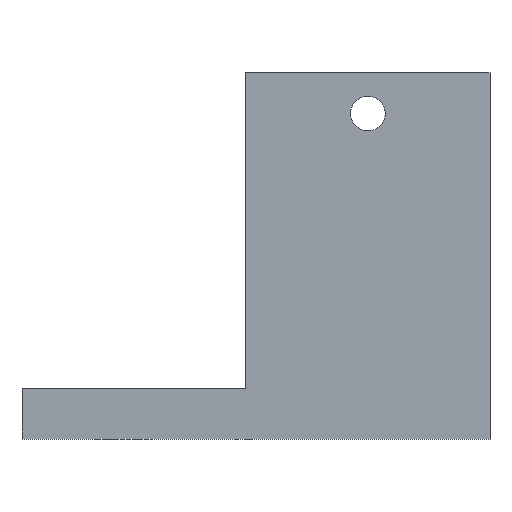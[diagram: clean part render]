
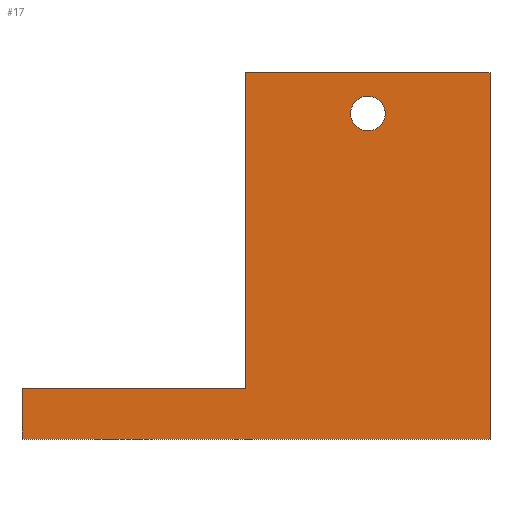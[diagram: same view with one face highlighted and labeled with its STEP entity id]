
A CAD part, left-side view. The second image highlights one B-rep face of the part: STEP entity #17.
In plain terms, the highlighted planar face has unit normal (-1, 0, 0).
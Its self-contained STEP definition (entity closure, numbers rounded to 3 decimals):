
#17 = ADVANCED_FACE('',(#18,#193),#32,.F.);
#18 = FACE_BOUND('',#19,.F.);
#19 = EDGE_LOOP('',(#20,#55,#83,#111,#139,#167));
#20 = ORIENTED_EDGE('',*,*,#21,.F.);
#21 = EDGE_CURVE('',#22,#24,#26,.T.);
#22 = VERTEX_POINT('',#23);
#23 = CARTESIAN_POINT('',(0.,0.,0.));
#24 = VERTEX_POINT('',#25);
#25 = CARTESIAN_POINT('',(0.,0.,36.));
#26 = SURFACE_CURVE('',#27,(#31,#43),.PCURVE_S1.);
#27 = LINE('',#28,#29);
#28 = CARTESIAN_POINT('',(0.,0.,0.));
#29 = VECTOR('',#30,1.);
#30 = DIRECTION('',(0.,0.,1.));
#31 = PCURVE('',#32,#37);
#32 = PLANE('',#33);
#33 = AXIS2_PLACEMENT_3D('',#34,#35,#36);
#34 = CARTESIAN_POINT('',(0.,0.,0.));
#35 = DIRECTION('',(1.,0.,0.));
#36 = DIRECTION('',(0.,0.,1.));
#37 = DEFINITIONAL_REPRESENTATION('',(#38),#42);
#38 = LINE('',#39,#40);
#39 = CARTESIAN_POINT('',(0.,0.));
#40 = VECTOR('',#41,1.);
#41 = DIRECTION('',(1.,0.));
#42 = ( GEOMETRIC_REPRESENTATION_CONTEXT(2) 
PARAMETRIC_REPRESENTATION_CONTEXT() REPRESENTATION_CONTEXT('2D SPACE',''
  ) );
#43 = PCURVE('',#44,#49);
#44 = PLANE('',#45);
#45 = AXIS2_PLACEMENT_3D('',#46,#47,#48);
#46 = CARTESIAN_POINT('',(0.,0.,0.));
#47 = DIRECTION('',(0.,1.,0.));
#48 = DIRECTION('',(0.,0.,1.));
#49 = DEFINITIONAL_REPRESENTATION('',(#50),#54);
#50 = LINE('',#51,#52);
#51 = CARTESIAN_POINT('',(0.,0.));
#52 = VECTOR('',#53,1.);
#53 = DIRECTION('',(1.,0.));
#54 = ( GEOMETRIC_REPRESENTATION_CONTEXT(2) 
PARAMETRIC_REPRESENTATION_CONTEXT() REPRESENTATION_CONTEXT('2D SPACE',''
  ) );
#55 = ORIENTED_EDGE('',*,*,#56,.F.);
#56 = EDGE_CURVE('',#57,#22,#59,.T.);
#57 = VERTEX_POINT('',#58);
#58 = CARTESIAN_POINT('',(0.,46.,0.));
#59 = SURFACE_CURVE('',#60,(#64,#71),.PCURVE_S1.);
#60 = LINE('',#61,#62);
#61 = CARTESIAN_POINT('',(0.,46.,0.));
#62 = VECTOR('',#63,1.);
#63 = DIRECTION('',(0.,-1.,0.));
#64 = PCURVE('',#32,#65);
#65 = DEFINITIONAL_REPRESENTATION('',(#66),#70);
#66 = LINE('',#67,#68);
#67 = CARTESIAN_POINT('',(0.,-46.));
#68 = VECTOR('',#69,1.);
#69 = DIRECTION('',(0.,1.));
#70 = ( GEOMETRIC_REPRESENTATION_CONTEXT(2) 
PARAMETRIC_REPRESENTATION_CONTEXT() REPRESENTATION_CONTEXT('2D SPACE',''
  ) );
#71 = PCURVE('',#72,#77);
#72 = PLANE('',#73);
#73 = AXIS2_PLACEMENT_3D('',#74,#75,#76);
#74 = CARTESIAN_POINT('',(0.,0.,0.));
#75 = DIRECTION('',(0.,0.,1.));
#76 = DIRECTION('',(1.,0.,0.));
#77 = DEFINITIONAL_REPRESENTATION('',(#78),#82);
#78 = LINE('',#79,#80);
#79 = CARTESIAN_POINT('',(0.,46.));
#80 = VECTOR('',#81,1.);
#81 = DIRECTION('',(0.,-1.));
#82 = ( GEOMETRIC_REPRESENTATION_CONTEXT(2) 
PARAMETRIC_REPRESENTATION_CONTEXT() REPRESENTATION_CONTEXT('2D SPACE',''
  ) );
#83 = ORIENTED_EDGE('',*,*,#84,.T.);
#84 = EDGE_CURVE('',#57,#85,#87,.T.);
#85 = VERTEX_POINT('',#86);
#86 = CARTESIAN_POINT('',(0.,46.,5.));
#87 = SURFACE_CURVE('',#88,(#92,#99),.PCURVE_S1.);
#88 = LINE('',#89,#90);
#89 = CARTESIAN_POINT('',(0.,46.,0.));
#90 = VECTOR('',#91,1.);
#91 = DIRECTION('',(0.,0.,1.));
#92 = PCURVE('',#32,#93);
#93 = DEFINITIONAL_REPRESENTATION('',(#94),#98);
#94 = LINE('',#95,#96);
#95 = CARTESIAN_POINT('',(0.,-46.));
#96 = VECTOR('',#97,1.);
#97 = DIRECTION('',(1.,0.));
#98 = ( GEOMETRIC_REPRESENTATION_CONTEXT(2) 
PARAMETRIC_REPRESENTATION_CONTEXT() REPRESENTATION_CONTEXT('2D SPACE',''
  ) );
#99 = PCURVE('',#100,#105);
#100 = PLANE('',#101);
#101 = AXIS2_PLACEMENT_3D('',#102,#103,#104);
#102 = CARTESIAN_POINT('',(0.,46.,0.));
#103 = DIRECTION('',(0.,1.,0.));
#104 = DIRECTION('',(0.,0.,1.));
#105 = DEFINITIONAL_REPRESENTATION('',(#106),#110);
#106 = LINE('',#107,#108);
#107 = CARTESIAN_POINT('',(0.,0.));
#108 = VECTOR('',#109,1.);
#109 = DIRECTION('',(1.,0.));
#110 = ( GEOMETRIC_REPRESENTATION_CONTEXT(2) 
PARAMETRIC_REPRESENTATION_CONTEXT() REPRESENTATION_CONTEXT('2D SPACE',''
  ) );
#111 = ORIENTED_EDGE('',*,*,#112,.F.);
#112 = EDGE_CURVE('',#113,#85,#115,.T.);
#113 = VERTEX_POINT('',#114);
#114 = CARTESIAN_POINT('',(0.,24.,5.));
#115 = SURFACE_CURVE('',#116,(#120,#127),.PCURVE_S1.);
#116 = LINE('',#117,#118);
#117 = CARTESIAN_POINT('',(0.,0.,5.));
#118 = VECTOR('',#119,1.);
#119 = DIRECTION('',(0.,1.,0.));
#120 = PCURVE('',#32,#121);
#121 = DEFINITIONAL_REPRESENTATION('',(#122),#126);
#122 = LINE('',#123,#124);
#123 = CARTESIAN_POINT('',(5.,0.));
#124 = VECTOR('',#125,1.);
#125 = DIRECTION('',(0.,-1.));
#126 = ( GEOMETRIC_REPRESENTATION_CONTEXT(2) 
PARAMETRIC_REPRESENTATION_CONTEXT() REPRESENTATION_CONTEXT('2D SPACE',''
  ) );
#127 = PCURVE('',#128,#133);
#128 = PLANE('',#129);
#129 = AXIS2_PLACEMENT_3D('',#130,#131,#132);
#130 = CARTESIAN_POINT('',(0.,0.,5.));
#131 = DIRECTION('',(0.,0.,1.));
#132 = DIRECTION('',(1.,0.,0.));
#133 = DEFINITIONAL_REPRESENTATION('',(#134),#138);
#134 = LINE('',#135,#136);
#135 = CARTESIAN_POINT('',(0.,0.));
#136 = VECTOR('',#137,1.);
#137 = DIRECTION('',(0.,1.));
#138 = ( GEOMETRIC_REPRESENTATION_CONTEXT(2) 
PARAMETRIC_REPRESENTATION_CONTEXT() REPRESENTATION_CONTEXT('2D SPACE',''
  ) );
#139 = ORIENTED_EDGE('',*,*,#140,.T.);
#140 = EDGE_CURVE('',#113,#141,#143,.T.);
#141 = VERTEX_POINT('',#142);
#142 = CARTESIAN_POINT('',(0.,24.,36.));
#143 = SURFACE_CURVE('',#144,(#148,#155),.PCURVE_S1.);
#144 = LINE('',#145,#146);
#145 = CARTESIAN_POINT('',(0.,24.,0.));
#146 = VECTOR('',#147,1.);
#147 = DIRECTION('',(0.,0.,1.));
#148 = PCURVE('',#32,#149);
#149 = DEFINITIONAL_REPRESENTATION('',(#150),#154);
#150 = LINE('',#151,#152);
#151 = CARTESIAN_POINT('',(0.,-24.));
#152 = VECTOR('',#153,1.);
#153 = DIRECTION('',(1.,0.));
#154 = ( GEOMETRIC_REPRESENTATION_CONTEXT(2) 
PARAMETRIC_REPRESENTATION_CONTEXT() REPRESENTATION_CONTEXT('2D SPACE',''
  ) );
#155 = PCURVE('',#156,#161);
#156 = PLANE('',#157);
#157 = AXIS2_PLACEMENT_3D('',#158,#159,#160);
#158 = CARTESIAN_POINT('',(0.,24.,0.));
#159 = DIRECTION('',(0.,1.,0.));
#160 = DIRECTION('',(0.,0.,1.));
#161 = DEFINITIONAL_REPRESENTATION('',(#162),#166);
#162 = LINE('',#163,#164);
#163 = CARTESIAN_POINT('',(0.,0.));
#164 = VECTOR('',#165,1.);
#165 = DIRECTION('',(1.,0.));
#166 = ( GEOMETRIC_REPRESENTATION_CONTEXT(2) 
PARAMETRIC_REPRESENTATION_CONTEXT() REPRESENTATION_CONTEXT('2D SPACE',''
  ) );
#167 = ORIENTED_EDGE('',*,*,#168,.F.);
#168 = EDGE_CURVE('',#24,#141,#169,.T.);
#169 = SURFACE_CURVE('',#170,(#174,#181),.PCURVE_S1.);
#170 = LINE('',#171,#172);
#171 = CARTESIAN_POINT('',(0.,0.,36.));
#172 = VECTOR('',#173,1.);
#173 = DIRECTION('',(0.,1.,0.));
#174 = PCURVE('',#32,#175);
#175 = DEFINITIONAL_REPRESENTATION('',(#176),#180);
#176 = LINE('',#177,#178);
#177 = CARTESIAN_POINT('',(36.,0.));
#178 = VECTOR('',#179,1.);
#179 = DIRECTION('',(0.,-1.));
#180 = ( GEOMETRIC_REPRESENTATION_CONTEXT(2) 
PARAMETRIC_REPRESENTATION_CONTEXT() REPRESENTATION_CONTEXT('2D SPACE',''
  ) );
#181 = PCURVE('',#182,#187);
#182 = PLANE('',#183);
#183 = AXIS2_PLACEMENT_3D('',#184,#185,#186);
#184 = CARTESIAN_POINT('',(0.,0.,36.));
#185 = DIRECTION('',(0.,0.,1.));
#186 = DIRECTION('',(1.,0.,0.));
#187 = DEFINITIONAL_REPRESENTATION('',(#188),#192);
#188 = LINE('',#189,#190);
#189 = CARTESIAN_POINT('',(0.,0.));
#190 = VECTOR('',#191,1.);
#191 = DIRECTION('',(0.,1.));
#192 = ( GEOMETRIC_REPRESENTATION_CONTEXT(2) 
PARAMETRIC_REPRESENTATION_CONTEXT() REPRESENTATION_CONTEXT('2D SPACE',''
  ) );
#193 = FACE_BOUND('',#194,.F.);
#194 = EDGE_LOOP('',(#195));
#195 = ORIENTED_EDGE('',*,*,#196,.F.);
#196 = EDGE_CURVE('',#197,#197,#199,.T.);
#197 = VERTEX_POINT('',#198);
#198 = CARTESIAN_POINT('',(0.,12.,33.7));
#199 = SURFACE_CURVE('',#200,(#205,#212),.PCURVE_S1.);
#200 = CIRCLE('',#201,1.7);
#201 = AXIS2_PLACEMENT_3D('',#202,#203,#204);
#202 = CARTESIAN_POINT('',(0.,12.,32.));
#203 = DIRECTION('',(1.,0.,0.));
#204 = DIRECTION('',(-0.,0.,1.));
#205 = PCURVE('',#32,#206);
#206 = DEFINITIONAL_REPRESENTATION('',(#207),#211);
#207 = CIRCLE('',#208,1.7);
#208 = AXIS2_PLACEMENT_2D('',#209,#210);
#209 = CARTESIAN_POINT('',(32.,-12.));
#210 = DIRECTION('',(1.,0.));
#211 = ( GEOMETRIC_REPRESENTATION_CONTEXT(2) 
PARAMETRIC_REPRESENTATION_CONTEXT() REPRESENTATION_CONTEXT('2D SPACE',''
  ) );
#212 = PCURVE('',#213,#218);
#213 = CYLINDRICAL_SURFACE('',#214,1.7);
#214 = AXIS2_PLACEMENT_3D('',#215,#216,#217);
#215 = CARTESIAN_POINT('',(-472.,12.,32.));
#216 = DIRECTION('',(1.,0.,0.));
#217 = DIRECTION('',(-0.,0.,1.));
#218 = DEFINITIONAL_REPRESENTATION('',(#219),#223);
#219 = LINE('',#220,#221);
#220 = CARTESIAN_POINT('',(0.,472.));
#221 = VECTOR('',#222,1.);
#222 = DIRECTION('',(1.,0.));
#223 = ( GEOMETRIC_REPRESENTATION_CONTEXT(2) 
PARAMETRIC_REPRESENTATION_CONTEXT() REPRESENTATION_CONTEXT('2D SPACE',''
  ) );
